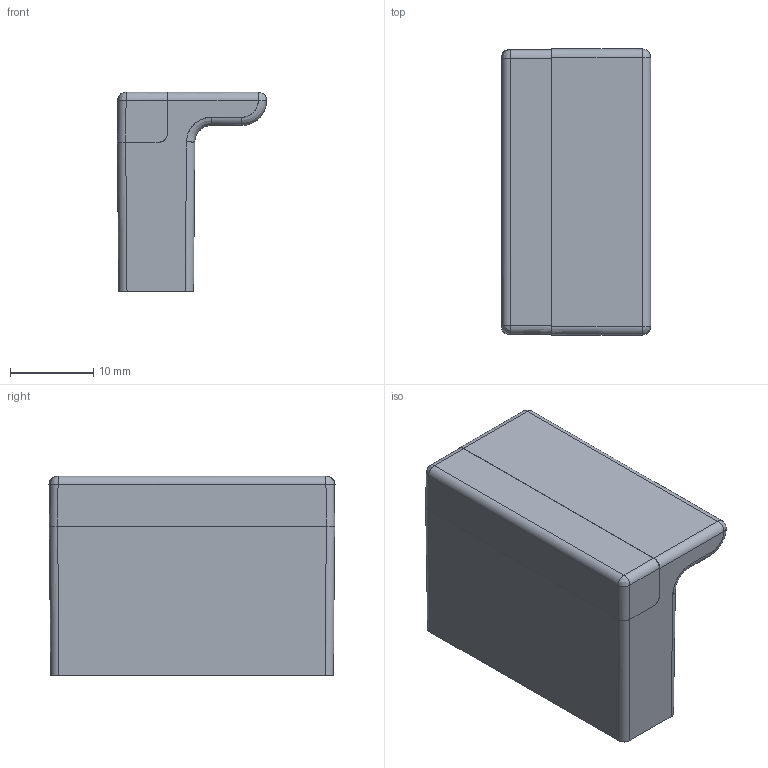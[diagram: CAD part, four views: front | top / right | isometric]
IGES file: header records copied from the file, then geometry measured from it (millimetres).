
Start section: C
Global section: file name: 8095-34.igs; native system: By Siemens PLM Incorporated; preprocessor: XPlus GENERIC/IGES 16.0.42; author: Author; organization: Title; date: 20231128.120057; units: millimetre
Bounding box: 17.95 x 34.4 x 24 mm (x, y, z)
Surface area: 5781.2 mm2 (no closed solid volume)
Topology: 0 solids, 0 shells, 219 faces, 1424 edges, 1420 vertices
Faces by surface type: bspline 219
